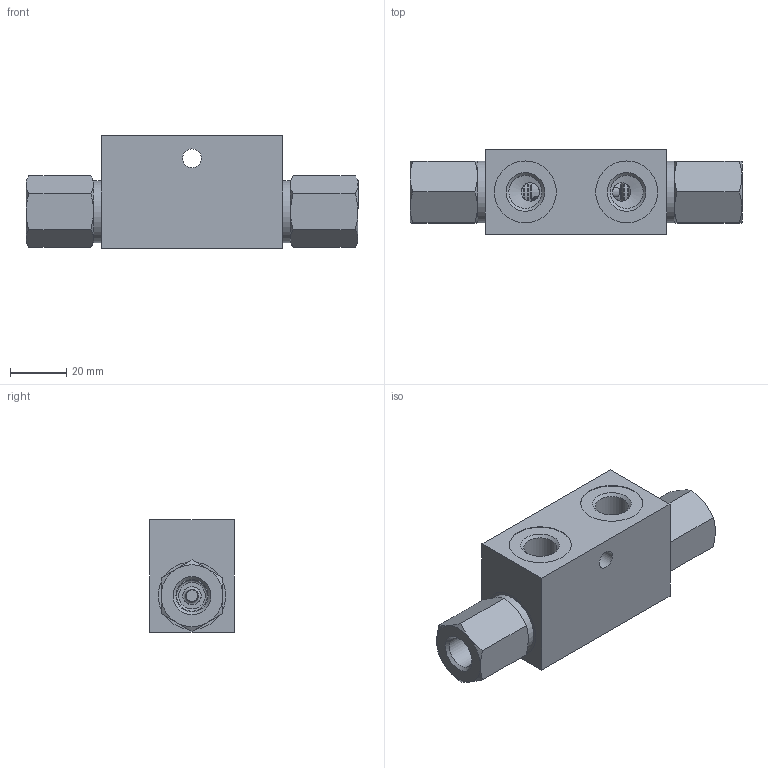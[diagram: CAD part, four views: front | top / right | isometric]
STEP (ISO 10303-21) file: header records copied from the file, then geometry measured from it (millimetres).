
FILE_DESCRIPTION(/* description */ (''),/* implementation_level */ '2;1');
FILE_NAME(/* name */ 'C:\Users\fabio.radici.LUEN\Desktop\N03-026-AJ0-A_Shrinkwrap.stp',/* time_stamp */ '2020-10-09T14:21:46+02:00',/* author */ ('Fabio.Radici'),/* organization */ (''),/* preprocessor_version */ 'ST-DEVELOPER v18',/* originating_system */ 'Autodesk Inventor 2020',/* authorisation */ '');
FILE_SCHEMA (('AUTOMOTIVE_DESIGN { 1 0 10303 214 3 1 1 }'));
Length unit declared in the file: millimetre
Products named in the file (1): N03-026-AJ0-A_Shrinkwrap
Bounding box: 118 x 30 x 40 mm (x, y, z)
Surface area: 20252.5 mm2 (no closed solid volume)
Topology: 0 solids, 10 shells, 101 faces, 312 edges, 222 vertices
Faces by surface type: cone 39, plane 30, cylinder 24, torus 8
Full cylindrical faces by diameter (mm): 3.5 x2, 4 x2, 4.5 x2, 6.5 x3, 6.647 x1, 11.445 x2, 11.75 x2, 13 x2, 16 x2, 22 x4, 24 x2
Entity records: 4327 total; most frequent: CARTESIAN_POINT 1409, DIRECTION 582, ORIENTED_EDGE 567, EDGE_CURVE 311, AXIS2_PLACEMENT_3D 255, VERTEX_POINT 222, CIRCLE 153, EDGE_LOOP 127
